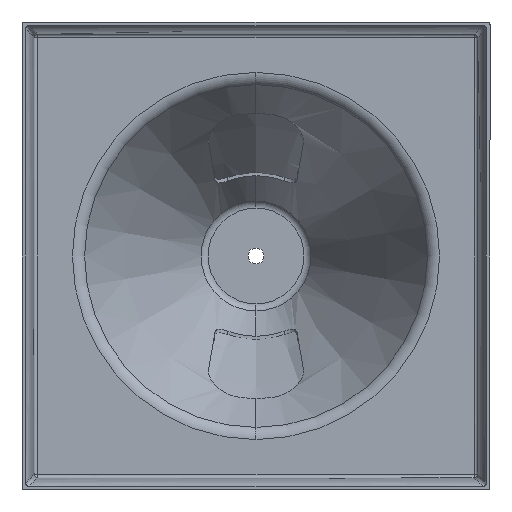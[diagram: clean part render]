
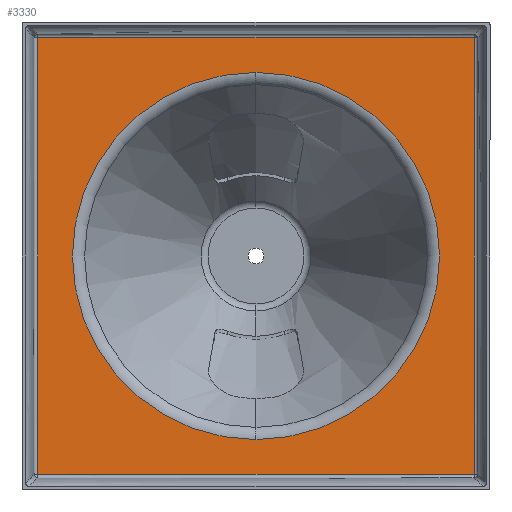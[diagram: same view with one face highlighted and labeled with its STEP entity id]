
A CAD part, front view. The second image highlights one B-rep face of the part: STEP entity #3330.
In plain terms, the highlighted planar face has unit normal (0, -1, 0).
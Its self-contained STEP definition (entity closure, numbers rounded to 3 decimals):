
#275 = FACE_BOUND ( 'NONE', #3607, .T. ) ;
#541 = PLANE ( 'NONE',  #4067 ) ;
#550 = CARTESIAN_POINT ( 'NONE',  ( 0., -4., -252.988 ) ) ;
#578 = DIRECTION ( 'NONE',  ( 0., -1., 0. ) ) ;
#583 = DIRECTION ( 'NONE',  ( 0., 0., -1. ) ) ;
#671 = CIRCLE ( 'NONE', #2355, 252.988 ) ;
#695 = ORIENTED_EDGE ( 'NONE', *, *, #5385, .T. ) ;
#848 = B_SPLINE_CURVE_WITH_KNOTS ( 'NONE', 3,
 ( #2257, #2275, #2230, #2223, #2217, #2169, #2149, #2128, #2102, #2079, #2063, #2020, #1975 ),
 .UNSPECIFIED., .F., .F.,
 ( 4, 3, 3, 3, 4 ),
 ( 0., 0.04, 0.272, 0.388, 0.602 ),
 .UNSPECIFIED. ) ;
#1053 = CARTESIAN_POINT ( 'NONE',  ( 0., -4., 0. ) ) ;
#1054 = DIRECTION ( 'NONE',  ( 0., -1., 0. ) ) ;
#1060 = DIRECTION ( 'NONE',  ( 0., 0., -1. ) ) ;
#1437 = ORIENTED_EDGE ( 'NONE', *, *, #3824, .F. ) ;
#1601 = DIRECTION ( 'NONE',  ( 0., 0., -1. ) ) ;
#1642 = DIRECTION ( 'NONE',  ( 0., -1., 0. ) ) ;
#1697 = CARTESIAN_POINT ( 'NONE',  ( 0., -4., 0. ) ) ;
#1971 = ORIENTED_EDGE ( 'NONE', *, *, #5009, .F. ) ;
#1975 = CARTESIAN_POINT ( 'NONE',  ( -300.972, -4., 300.972 ) ) ;
#2020 = CARTESIAN_POINT ( 'NONE',  ( -229.727, -4., 300.972 ) ) ;
#2063 = CARTESIAN_POINT ( 'NONE',  ( -158.482, -4., 300.972 ) ) ;
#2079 = CARTESIAN_POINT ( 'NONE',  ( -87.237, -4., 300.972 ) ) ;
#2102 = CARTESIAN_POINT ( 'NONE',  ( -48.496, -4., 300.972 ) ) ;
#2128 = CARTESIAN_POINT ( 'NONE',  ( -9.756, -4., 300.972 ) ) ;
#2149 = CARTESIAN_POINT ( 'NONE',  ( 28.984, -4., 300.972 ) ) ;
#2169 = CARTESIAN_POINT ( 'NONE',  ( 106.464, -4., 300.972 ) ) ;
#2172 = ORIENTED_EDGE ( 'NONE', *, *, #5092, .T. ) ;
#2217 = CARTESIAN_POINT ( 'NONE',  ( 183.944, -4., 300.972 ) ) ;
#2223 = CARTESIAN_POINT ( 'NONE',  ( 261.424, -4., 300.972 ) ) ;
#2230 = CARTESIAN_POINT ( 'NONE',  ( 274.607, -4., 300.972 ) ) ;
#2257 = CARTESIAN_POINT ( 'NONE',  ( 300.972, -4., 300.972 ) ) ;
#2275 = CARTESIAN_POINT ( 'NONE',  ( 287.789, -4., 300.972 ) ) ;
#2295 = VERTEX_POINT ( 'NONE', #6087 ) ;
#2325 = VERTEX_POINT ( 'NONE', #6285 ) ;
#2355 = AXIS2_PLACEMENT_3D ( 'NONE', #1053, #1054, #1060 ) ;
#2418 = CARTESIAN_POINT ( 'NONE',  ( 300.972, -4., -300.972 ) ) ;
#2456 = CARTESIAN_POINT ( 'NONE',  ( 287.789, -4., -300.972 ) ) ;
#2496 = CARTESIAN_POINT ( 'NONE',  ( 274.607, -4., -300.972 ) ) ;
#2735 = CARTESIAN_POINT ( 'NONE',  ( 261.424, -4., -300.972 ) ) ;
#2754 = CARTESIAN_POINT ( 'NONE',  ( 183.944, -4., -300.972 ) ) ;
#2776 = CARTESIAN_POINT ( 'NONE',  ( 106.464, -4., -300.972 ) ) ;
#2799 = CARTESIAN_POINT ( 'NONE',  ( 28.984, -4., -300.972 ) ) ;
#2812 = VERTEX_POINT ( 'NONE', #4025 ) ;
#2814 = CARTESIAN_POINT ( 'NONE',  ( -9.756, -4., -300.972 ) ) ;
#2828 = AXIS2_PLACEMENT_3D ( 'NONE', #1697, #1642, #1601 ) ;
#2858 = CARTESIAN_POINT ( 'NONE',  ( -48.496, -4., -300.972 ) ) ;
#2884 = CARTESIAN_POINT ( 'NONE',  ( -87.237, -4., -300.972 ) ) ;
#2899 = CARTESIAN_POINT ( 'NONE',  ( -158.482, -4., -300.972 ) ) ;
#2967 = VERTEX_POINT ( 'NONE', #6134 ) ;
#2974 = CARTESIAN_POINT ( 'NONE',  ( -300.972, -4., -300.972 ) ) ;
#3027 = CARTESIAN_POINT ( 'NONE',  ( -300.972, -4., 229.727 ) ) ;
#3067 = VERTEX_POINT ( 'NONE', #4602 ) ;
#3073 = CARTESIAN_POINT ( 'NONE',  ( -300.972, -4., 300.972 ) ) ;
#3092 = CARTESIAN_POINT ( 'NONE',  ( -300.972, -4., 158.482 ) ) ;
#3101 = CARTESIAN_POINT ( 'NONE',  ( -300.972, -4., 87.237 ) ) ;
#3104 = CARTESIAN_POINT ( 'NONE',  ( -300.972, -4., 48.496 ) ) ;
#3113 = CARTESIAN_POINT ( 'NONE',  ( -300.972, -4., 9.756 ) ) ;
#3115 = CARTESIAN_POINT ( 'NONE',  ( -300.972, -4., -28.984 ) ) ;
#3124 = CARTESIAN_POINT ( 'NONE',  ( -300.972, -4., -106.464 ) ) ;
#3133 = CARTESIAN_POINT ( 'NONE',  ( -300.972, -4., -183.944 ) ) ;
#3150 = CARTESIAN_POINT ( 'NONE',  ( -300.972, -4., -261.424 ) ) ;
#3160 = CARTESIAN_POINT ( 'NONE',  ( -300.972, -4., -274.607 ) ) ;
#3178 = CARTESIAN_POINT ( 'NONE',  ( -300.972, -4., -287.789 ) ) ;
#3180 = CARTESIAN_POINT ( 'NONE',  ( -300.972, -4., -300.972 ) ) ;
#3235 = FACE_OUTER_BOUND ( 'NONE', #6229, .T. ) ;
#3250 = CARTESIAN_POINT ( 'NONE',  ( -229.727, -4., -300.972 ) ) ;
#3289 = CARTESIAN_POINT ( 'NONE',  ( 0., -4., 252.988 ) ) ;
#3330 = ADVANCED_FACE ( 'NONE', ( #3235, #275 ), #541, .T. ) ;
#3504 = ORIENTED_EDGE ( 'NONE', *, *, #6133, .T. ) ;
#3607 = EDGE_LOOP ( 'NONE', ( #1971, #1437 ) ) ;
#3784 = B_SPLINE_CURVE_WITH_KNOTS ( 'NONE', 3,
 ( #3073, #3027, #3092, #3101, #3104, #3113, #3115, #3124, #3133, #3150, #3160, #3178, #3180 ),
 .UNSPECIFIED., .F., .F.,
 ( 4, 3, 3, 3, 4 ),
 ( 0., 0.214, 0.33, 0.562, 0.602 ),
 .UNSPECIFIED. ) ;
#3824 = EDGE_CURVE ( 'NONE', #5642, #2325, #671, .T. ) ;
#4025 = CARTESIAN_POINT ( 'NONE',  ( -300.972, -4., -300.972 ) ) ;
#4067 = AXIS2_PLACEMENT_3D ( 'NONE', #550, #578, #583 ) ;
#4372 = CARTESIAN_POINT ( 'NONE',  ( 300.972, -4., 300.972 ) ) ;
#4401 = CARTESIAN_POINT ( 'NONE',  ( 300.972, -4., 229.727 ) ) ;
#4407 = CARTESIAN_POINT ( 'NONE',  ( 300.972, -4., 158.482 ) ) ;
#4414 = CARTESIAN_POINT ( 'NONE',  ( 300.972, -4., 87.237 ) ) ;
#4422 = EDGE_CURVE ( 'NONE', #2967, #2812, #3784, .T. ) ;
#4446 = CARTESIAN_POINT ( 'NONE',  ( 300.972, -4., 48.496 ) ) ;
#4464 = CARTESIAN_POINT ( 'NONE',  ( 300.972, -4., 9.756 ) ) ;
#4523 = CARTESIAN_POINT ( 'NONE',  ( 300.972, -4., -28.984 ) ) ;
#4545 = CARTESIAN_POINT ( 'NONE',  ( 300.972, -4., -106.464 ) ) ;
#4583 = CARTESIAN_POINT ( 'NONE',  ( 300.972, -4., -183.944 ) ) ;
#4600 = CARTESIAN_POINT ( 'NONE',  ( 300.972, -4., -261.424 ) ) ;
#4602 = CARTESIAN_POINT ( 'NONE',  ( 300.972, -4., -300.972 ) ) ;
#4630 = ORIENTED_EDGE ( 'NONE', *, *, #4422, .T. ) ;
#4635 = CARTESIAN_POINT ( 'NONE',  ( 300.972, -4., -274.607 ) ) ;
#4711 = CARTESIAN_POINT ( 'NONE',  ( 300.972, -4., -287.789 ) ) ;
#4720 = CARTESIAN_POINT ( 'NONE',  ( 300.972, -4., -300.972 ) ) ;
#4729 = B_SPLINE_CURVE_WITH_KNOTS ( 'NONE', 3,
 ( #4720, #4711, #4635, #4600, #4583, #4545, #4523, #4464, #4446, #4414, #4407, #4401, #4372 ),
 .UNSPECIFIED., .F., .F.,
 ( 4, 3, 3, 3, 4 ),
 ( 0., 0.04, 0.272, 0.388, 0.602 ),
 .UNSPECIFIED. ) ;
#4780 = CIRCLE ( 'NONE', #2828, 252.988 ) ;
#4832 = B_SPLINE_CURVE_WITH_KNOTS ( 'NONE', 3,
 ( #2974, #3250, #2899, #2884, #2858, #2814, #2799, #2776, #2754, #2735, #2496, #2456, #2418 ),
 .UNSPECIFIED., .F., .F.,
 ( 4, 3, 3, 3, 4 ),
 ( 0., 0.214, 0.33, 0.562, 0.602 ),
 .UNSPECIFIED. ) ;
#5009 = EDGE_CURVE ( 'NONE', #2325, #5642, #4780, .T. ) ;
#5092 = EDGE_CURVE ( 'NONE', #3067, #2295, #4729, .T. ) ;
#5385 = EDGE_CURVE ( 'NONE', #2812, #3067, #4832, .T. ) ;
#5642 = VERTEX_POINT ( 'NONE', #3289 ) ;
#6087 = CARTESIAN_POINT ( 'NONE',  ( 300.972, -4., 300.972 ) ) ;
#6133 = EDGE_CURVE ( 'NONE', #2295, #2967, #848, .T. ) ;
#6134 = CARTESIAN_POINT ( 'NONE',  ( -300.972, -4., 300.972 ) ) ;
#6229 = EDGE_LOOP ( 'NONE', ( #2172, #3504, #4630, #695 ) ) ;
#6285 = CARTESIAN_POINT ( 'NONE',  ( 0., -4., -252.988 ) ) ;
